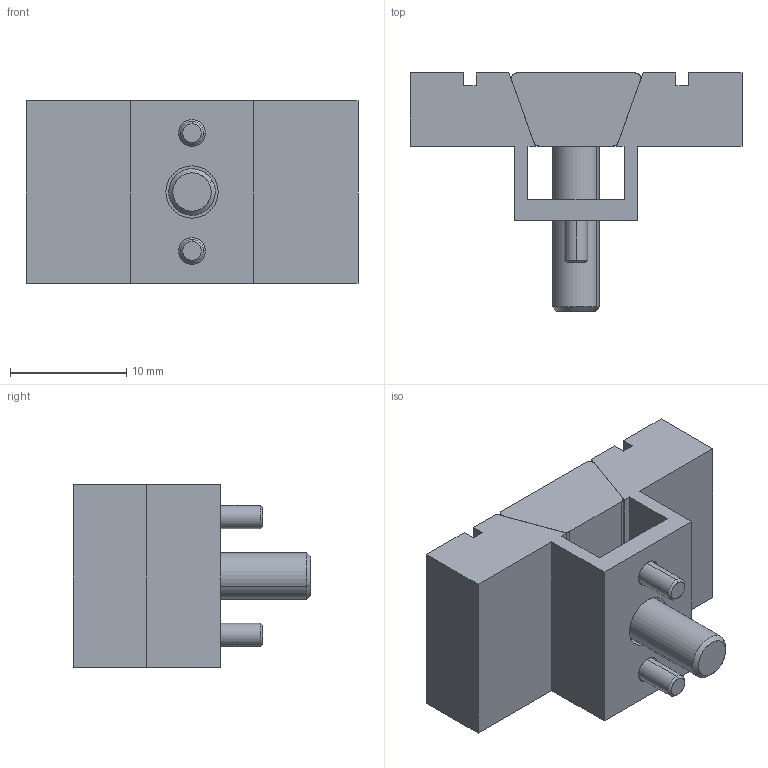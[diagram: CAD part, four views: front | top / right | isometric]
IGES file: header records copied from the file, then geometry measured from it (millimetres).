
Start section: SolidWorks IGES file using analytic representation for surfaces
Global section: file name: E:\Pending\12140_v2\12140_v2_20171107_IGES\12140.W0050.igs; native system: SolidWorks 2017; preprocessor: SolidWorks 2017; author: liam_; date: 171214.131347; units: millimetre
Bounding box: 28.6 x 20.5 x 15.7 mm (x, y, z)
Surface area: 3216.1 mm2 (no closed solid volume)
Topology: 0 solids, 0 shells, 114 faces, 1122 edges, 1118 vertices
Faces by surface type: bspline 73, revolution 41
